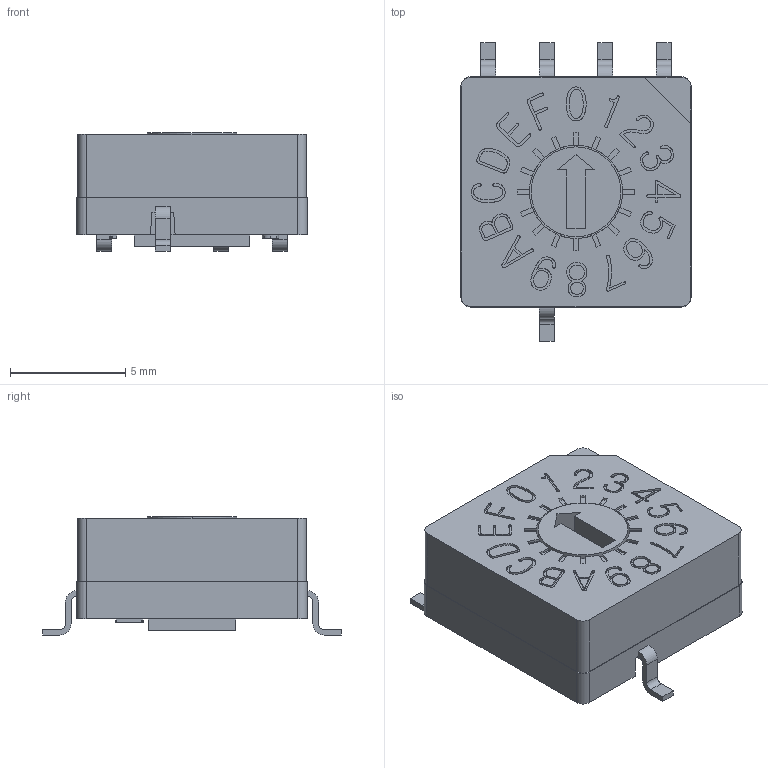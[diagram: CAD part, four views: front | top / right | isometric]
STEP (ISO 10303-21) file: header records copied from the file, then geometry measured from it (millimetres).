
FILE_DESCRIPTION (( 'STEP AP203' ), '1' );
FILE_NAME ('RKM4-16R.STEP', '2011-07-20T08:15:53', ( 'test' ), ( 'Microsoft' ), 'SwSTEP 2.0', 'SolidWorks 2008', '' );
FILE_SCHEMA (( 'CONFIG_CONTROL_DESIGN' ));
Products named in the file (6): RK4S-16R_預設; RK40_預設; RKM4-16R; RK4T-M(成型)_預設; RK4B-M(塑膠)_預設; RK4C-HM-16_預設
Assembly tree (5 placements, depth 2):
  RKM4-16R
    RK4C-HM-16_預設
    RK4T-M(成型)_預設
    RK4S-16R_預設
    RK40_預設
    RK4B-M(塑膠)_預設
Bounding box: 10 x 12.98 x 5.14 mm (x, y, z)
Volume: 387.1 mm3; surface area: 1241.6 mm2
Topology: 5 solids, 5 shells, 1324 faces, 3792 edges, 2522 vertices
Faces by surface type: plane 596, bspline 514, cylinder 212, cone 2
Entity records: 57347 total; most frequent: CARTESIAN_POINT 25132, ORIENTED_EDGE 7584, DIRECTION 4875, EDGE_CURVE 3792, VERTEX_POINT 2522, VECTOR 2297, LINE 2297, EDGE_LOOP 1404
